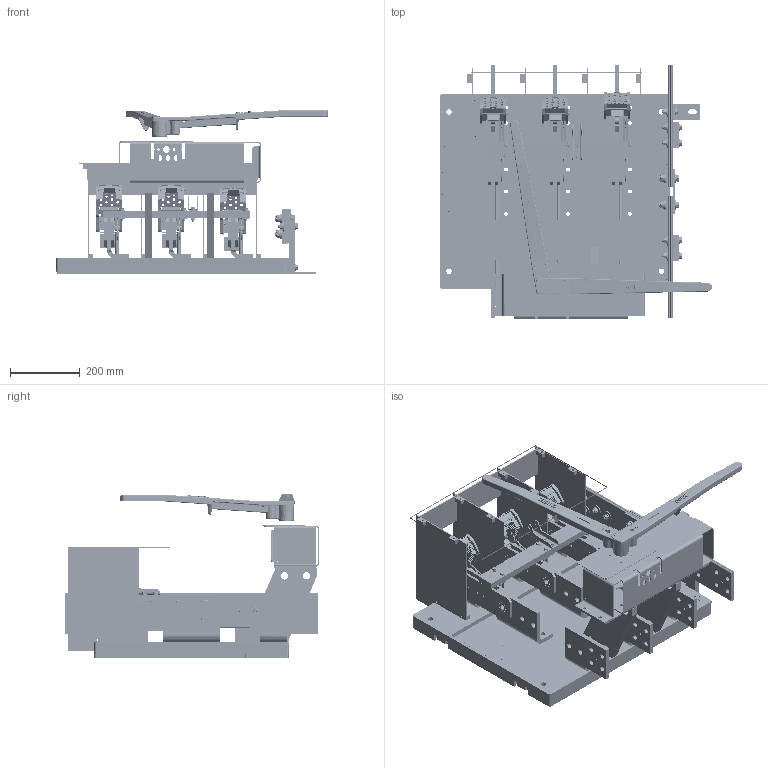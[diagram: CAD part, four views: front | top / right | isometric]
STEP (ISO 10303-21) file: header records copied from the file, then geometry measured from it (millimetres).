
FILE_DESCRIPTION(/* description */ (''),/* implementation_level */ '2;1');
FILE_NAME(/* name */ 'H:\switches\3d-templates\catalog-switches-iges-files\CATALOG-VL4610N.stp',/* time_stamp */ '2022-03-23T15:01:03-05:00',/* author */ ('MKingston'),/* organization */ (''),/* preprocessor_version */ 'ST-DEVELOPER v18.1',/* originating_system */ 'Autodesk Inventor 2022',/* authorisation */ '');
FILE_SCHEMA (('AUTOMOTIVE_DESIGN { 1 0 10303 214 3 1 1 }'));
Products named in the file (71): catalog-VL3610; 277; 669-D; 669-C; 669-E; CATALOG-2000amp-blade-assy; 69-AL; 69-AR; 67-fc3; 69-gc3; 67-j; 69-M; ANSI/ASME B18.7 - T 0.252 x 17/32; ANSI/ASME B18.7 - T 0.188 x 17/32; 235-b; CATALOG-57-qj-arc-chute-assy; 50-QLX; 50-QRX; 363-da; 363-da_MIR; 57-QJT; 57-QJB; 57-QJS; 57-QJSB; 57-QJST; ANSI B18.6.3 - 8-32 UNC - 3; ANSI B18.2.2 - 8 - 32; ANSI B18.6.4 - No. 8 - 32 - 3/8; 230-a; 255-z; 820-fw3; 246-a; 820-bw1; 223-d-transparent; 221-RP,R3; 255-bha; 255-c; 178-c; 2000-VL-NEUTRAL-NO-GFI; 675-a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
Assembly tree (185 placements, depth 4):
  catalog-VL3610
    277
    669-D  x3
    669-C  x3
    669-E  x3
    CATALOG-2000amp-blade-assy  x3
      69-AL
      69-AR
      67-fc3
      69-gc3
      67-j
      69-M
      ANSI/ASME B18.7 - T 0.252 x 17/32
      ANSI/ASME B18.7 - T 0.188 x 17/32
    235-b
    CATALOG-57-qj-arc-chute-assy  x3
      50-QLX
      50-QRX
      363-da
      363-da_MIR
      57-QJT
      57-QJB
      57-QJS
      57-QJSB
      57-QJST
      ANSI B18.6.3 - 8-32 UNC - 3
      ANSI B18.2.2 - 8 - 32
      ANSI B18.6.4 - No. 8 - 32 - 3/8
    230-a
    255-bha  x4
    255-z
    820-fw3
    246-a  x2
    820-bw1
    223-d-transparent
    221-RP,R3
    255-c
    178-c  x8
    2000-VL-NEUTRAL-NO-GFI
      675-a  x2
      675-ef  x2
      676-j  x4
      677-d  x2
      678-r
      Bolted Connection
        ASTM F436 - 1/2, CW  x8
        ANSI B18.2.1 - 1/2-13 UNC - 2, HCSI  x4
        ASME B18.21.1 - 1/2, RHSLW  x4
        AS 2465 - 1/2  UNC  x4
      Bolted Connection_1
        ASTM F436 - 3/8, CW  x4
        ANSI B18.2.1 - 3/8-16 UNC - 2, HCSI  x4
        ANSI B18.22.1 - 3/8 - wide - Type B  x4
        ANSI B18.21.1 - 0.375  x4
        ANSI B18.2.2 - 3/8 - 16, HNI  x4
      Bolted Connection_2
        ASTM F436 - 3/8, CW
        ANSI B18.2.1 - 3/8-16 UNC - 1.5, HCSI
        ANSI B18.22.1 - 3/8 - wide - Type B
        ANSI B18.21.1 - 0.375
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Bounding box: 779.41 x 726.77 x 469.37 mm (x, y, z)
Volume: 17517652.2 mm3; surface area: 4463520.5 mm2
Topology: 241 solids, 242 shells, 7357 faces, 18565 edges, 12042 vertices
Faces by surface type: plane 3636, cylinder 2010, cone 1036, bspline 448, torus 185, sphere 42
Full cylindrical faces by diameter (mm): 1.702 x8, 3.175 x4, 3.302 x8, 3.454 x4, 3.683 x8, 3.759 x12, 3.962 x4, 4.166 x24, 4.305 x42, 4.496 x24, 4.775 x11, 4.801 x8, 4.902 x14, 4.915 x24, 4.978 x5, 5.556 x3, 5.791 x6, 6.35 x48, 6.401 x9, 6.528 x78, 6.604 x8, 6.858 x18, 7.137 x10, 7.144 x12, 7.798 x11, 7.938 x21, 8.077 x3, 8.331 x2, 8.731 x2, 9.525 x9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
Entity records: 108607 total; most frequent: CARTESIAN_POINT 27235, DIRECTION 16276, ORIENTED_EDGE 16236, EDGE_CURVE 8126, AXIS2_PLACEMENT_3D 5808, VERTEX_POINT 5287, LINE 4660, VECTOR 4660
